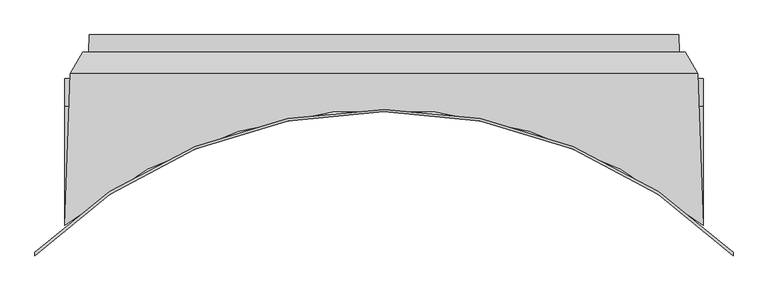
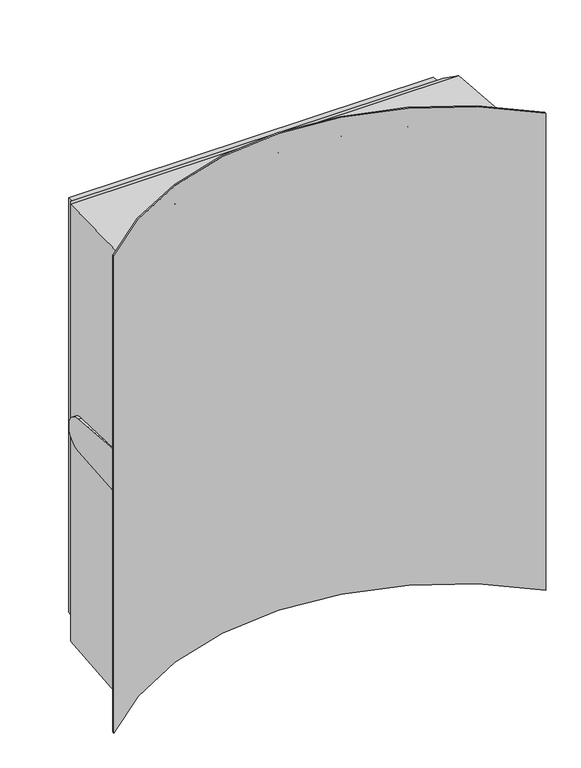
"""IFC4 building model written with IfcOpenShell, lengths in millimetres: proxy geometry, SU.1500x1800ManwayRiserAdaptor.2500."""

from ifc_helpers import new_model, si_unit, frame, origin, place, context, project, spatial, polyline, circle_curve, ellipse_curve, source, transform, mapped, element, save
from ifc_brep_helpers import plane_surface, cylinder_surface, revolved_surface, advanced_brep


def generic_models_790451eb(model_context):
    return source(origin(), model_context, "Body", "AdvancedBrep", [
        advanced_brep(
        [(-741.5036573, 0.0, -891.5036573), (741.5036573, 0.0, -891.5036573), (743.0401711, -44.0, -893.0401711), (-743.0401711, -44.0, -893.0401711), (758.3020983, -44.0, 908.3020983), (758.3020983, -44.0, -908.3020983), (-758.3020983, -44.0, -908.3020983), (-758.3020983, -44.0, 908.3020983), (743.0401711, -44.0, 893.0401711), (-743.0401711, -44.0, 893.0401711), (-741.5036573, 0.0, 891.5036573), (741.5036573, 0.0, 891.5036573), (-803.25, -180.0, 70.0), (-803.25, -479.9060938, 93.971831), (-802.9675096, -479.669245, 93.9528994), (-792.5028289, -180.0, 70.0), (-792.5028289, -180.0, -70.0), (-803.25, -180.0, -70.0), (-803.25, -479.9060938, -93.971831), (-802.9675096, -479.669245, -93.9528994), (878.2496957, -548.176803, 1025.0), (878.2496957, -548.176803, -1025.0), (-878.2496957, -548.176803, -1025.0), (-878.2496957, -548.176803, 1025.0), (-802.9675096, -479.669245, -952.9675096), (802.9675096, -479.669245, -952.9675096), (802.9675096, -479.669245, -93.9528994), (803.25, -479.9060938, -93.971831), (803.25, -479.9060938, 93.971831), (802.9675096, -479.669245, 93.9528994), (802.9675096, -479.669245, 952.9675096), (-802.9675096, -479.669245, 952.9675096), (-789.6496465, -98.2955463, 939.6496465), (-789.6496465, -98.2955463, -939.6496465), (803.25, -180.0, 70.0), (792.5028289, -180.0, 70.0), (803.25, -180.0, -70.0), (792.5028289, -180.0, -70.0), (789.6496465, -98.2955463, -939.6496465), (789.6496465, -98.2955463, 939.6496465), (878.2496957, -556.6285986, -1025.0), (878.2496957, -556.6285986, 1025.0), (-878.2496957, -556.6285986, 1025.0), (-878.2496957, -556.6285986, -1025.0)],
        [
            (0, 1),
            (1, 2),
            (2, 3),
            (3, 0),
            (4, 5),
            (5, 6),
            (6, 7),
            (7, 4),
            (2, 8),
            (8, 9),
            (9, 3),
            (10, 0),
            (9, 10),
            (11, 10),
            (8, 11),
            (1, 11),
            (12, 13),
            (13, 14, ellipse_curve(frame((0.0, -1437.6583778, 170.5260471), z_axis=(0.0, -0.07967700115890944, -0.99682073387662), x_axis=(0.0, -0.99682073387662, 0.07967700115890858)), 1253.9867576, 1250.0)),
            (14, 15),
            (15, 12),
            (15, 16, ellipse_curve(frame((-792.5028289, -180.0, 0.0), z_axis=(-0.9993908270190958, 0.034899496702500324, 0.0), x_axis=(0.03489949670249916, 0.9993908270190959, 0.0)), 70.0426681, 70.0)),
            (16, 17),
            (17, 12, circle_curve(frame((-803.25, -180.0, 0.0), z_axis=(1.0, 0.0, 0.0), x_axis=(0.0, 0.0, -1.0)), 70.0)),
            (18, 17),
            (16, 19),
            (19, 18, ellipse_curve(frame((0.0, -1437.6583778, -170.5260471), z_axis=(0.0, -0.07967700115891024, 0.99682073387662), x_axis=(0.0, 0.9968207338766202, 0.07967700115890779)), 1253.9867576, 1250.0)),
            (20, 21),
            (21, 22, circle_curve(frame((0.0, -1437.6583778, -1025.0), z_axis=(0.0, 0.0, 1.0), x_axis=(0.7025997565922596, 0.7115852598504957, 0.0)), 1250.0)),
            (22, 23),
            (23, 20, circle_curve(frame((0.0, -1437.6583778, 1025.0), z_axis=(0.0, 0.0, -1.0), x_axis=(0.7025997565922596, 0.7115852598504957, 0.0)), 1250.0)),
            (13, 18),
            (19, 24),
            (24, 25, ellipse_curve(frame((0.0, -1437.6583778, -986.4212272), z_axis=(0.0, 0.034899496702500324, -0.9993908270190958), x_axis=(0.0, 0.9993908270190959, 0.03489949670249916)), 1250.7619304, 1250.0)),
            (25, 26),
            (26, 27, ellipse_curve(frame((0.0, -1437.6583778, -170.5260471), z_axis=(0.0, 0.07967700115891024, -0.99682073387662), x_axis=(0.0, 0.9968207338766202, 0.07967700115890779)), 1253.9867576, 1250.0)),
            (27, 28),
            (28, 29, ellipse_curve(frame((0.0, -1437.6583778, 170.5260471), z_axis=(0.0, 0.07967700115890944, 0.99682073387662), x_axis=(0.0, -0.99682073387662, 0.07967700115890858)), 1253.9867576, 1250.0)),
            (29, 30),
            (30, 31, ellipse_curve(frame((0.0, -1437.6583778, 986.4212272), z_axis=(0.0, 0.034899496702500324, 0.9993908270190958), x_axis=(0.0, -0.9993908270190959, 0.03489949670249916)), 1250.7619304, 1250.0)),
            (31, 14),
            (31, 32),
            (32, 33),
            (33, 24),
            (34, 35),
            (35, 29),
            (28, 34),
            (34, 36, circle_curve(frame((803.25, -180.0, 0.0), z_axis=(-1.0, 0.0, 0.0), x_axis=(0.0, 0.0, -1.0)), 70.0)),
            (36, 37),
            (37, 35, ellipse_curve(frame((792.5028289, -180.0, 0.0), z_axis=(0.9993908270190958, 0.03489949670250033, 0.0), x_axis=(0.034899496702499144, -0.9993908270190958, 0.0)), 70.0426681, 70.0)),
            (27, 36),
            (26, 37),
            (25, 38),
            (38, 39),
            (39, 30),
            (33, 38),
            (38, 5),
            (4, 39),
            (33, 6),
            (32, 7),
            (39, 32),
            (40, 41),
            (41, 42, circle_curve(frame((0.0, -1437.6583778, 1025.0), z_axis=(0.0, 0.0, 1.0), x_axis=(-0.7059885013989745, -0.7082232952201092, 0.0)), 1244.0)),
            (42, 43),
            (43, 40, circle_curve(frame((0.0, -1437.6583778, -1025.0), z_axis=(0.0, 0.0, -1.0), x_axis=(-0.7059885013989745, -0.7082232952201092, 0.0)), 1244.0)),
            (40, 21),
            (20, 41),
            (42, 23),
            (22, 43),
        ],
        [
            plane_surface(frame((700.0, 0.0, -891.5036573), z_axis=(0.0, 0.03489949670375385, -0.999390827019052), x_axis=(0.0, -0.999390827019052, -0.03489949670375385))),
            plane_surface(frame((700.0, -44.0, -893.0401711), z_axis=(0.0, 1.0, 0.0), x_axis=(0.0, 0.0, -1.0))),
            plane_surface(frame((-741.5036573, 0.0, -850.0), z_axis=(-0.999390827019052, 0.03489949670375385, 0.0), x_axis=(-0.03489949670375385, -0.999390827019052, 0.0))),
            plane_surface(frame((-700.0, 0.0, 891.5036573), z_axis=(0.0, 0.03489949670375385, 0.999390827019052), x_axis=(0.0, -0.999390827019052, 0.03489949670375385))),
            plane_surface(frame((741.5036573, 0.0, 850.0), z_axis=(0.999390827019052, 0.03489949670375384, 0.0), x_axis=(0.03489949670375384, -0.999390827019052, 0.0))),
            plane_surface(frame((0.0, -180.0, 70.0), z_axis=(0.0, 0.07967700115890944, 0.99682073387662), x_axis=(0.0, -0.99682073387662, 0.07967700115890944))),
            cylinder_surface(frame((0.0, -180.0, 0.0), z_axis=(1.0, 0.0, 0.0), x_axis=(0.0, 0.0, -1.0)), 70.0),
            plane_surface(frame((0.0, -487.75, -94.5988032), z_axis=(0.0, 0.07967700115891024, -0.99682073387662), x_axis=(0.0, 0.99682073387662, 0.07967700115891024))),
            cylinder_surface(frame((0.0, -1437.6583778, 0.0), z_axis=(0.0, 0.0, 1.0), x_axis=(0.7025997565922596, 0.7115852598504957, 0.0)), 1250.0),
            plane_surface(frame((-789.6496465, -98.2955463, -850.0), z_axis=(-0.9993908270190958, 0.034899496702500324, 0.0), x_axis=(-0.034899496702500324, -0.9993908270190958, 0.0))),
            plane_surface(frame((803.25, -298.875, 0.0), z_axis=(1.0, 0.0, 0.0), x_axis=(0.0, 0.0, -1.0))),
            plane_surface(frame((789.6496465, -98.2955463, 850.0), z_axis=(0.9993908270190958, 0.03489949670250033, 0.0), x_axis=(0.03489949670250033, -0.9993908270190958, 0.0))),
            plane_surface(frame((700.0, -98.2955463, -939.6496465), z_axis=(0.0, 0.034899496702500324, -0.9993908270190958), x_axis=(0.0, -0.9993908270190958, -0.034899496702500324))),
            plane_surface(frame((758.3020983, -44.0, 850.0), z_axis=(0.8660254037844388, 0.4999999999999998, 0.0), x_axis=(0.4999999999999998, -0.8660254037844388, 0.0))),
            plane_surface(frame((700.0, -44.0, -908.3020983), z_axis=(0.0, 0.4999999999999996, -0.8660254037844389), x_axis=(0.0, -0.8660254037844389, -0.4999999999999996))),
            plane_surface(frame((-758.3020983, -44.0, -850.0), z_axis=(-0.8660254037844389, 0.4999999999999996, 0.0), x_axis=(-0.4999999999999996, -0.8660254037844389, 0.0))),
            plane_surface(frame((-700.0, -98.2955463, 939.6496465), z_axis=(0.0, 0.034899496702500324, 0.9993908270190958), x_axis=(0.0, -0.9993908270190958, 0.034899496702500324))),
            plane_surface(frame((-700.0, -44.0, 908.3020983), z_axis=(0.0, 0.4999999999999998, 0.8660254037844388), x_axis=(0.0, -0.8660254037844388, 0.4999999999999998))),
            revolved_surface(polyline([(-878.2496957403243, -2318.6881570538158, 1024.9999999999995), (-878.2496957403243, -2318.6881570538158, -1024.9999999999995)]), (0.0, -1437.6583778, 0.0), (0.0, 0.0, 0.9999999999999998)),
            plane_surface(frame((878.2496957, -556.6285986, 0.0), z_axis=(1.0, 0.0, 0.0), x_axis=(0.0, 1.0, 0.0))),
            plane_surface(frame((-878.2496957, -548.176803, 0.0), z_axis=(-1.0, 0.0, 0.0), x_axis=(0.0, -1.0, 0.0))),
            plane_surface(frame((0.0, -372.1434882, 1025.0), z_axis=(0.0, 0.0, 1.0), x_axis=(1.0, 0.0, 0.0))),
            plane_surface(frame((-803.25, -298.875, 0.0), z_axis=(-1.0, 0.0, 0.0), x_axis=(0.0, 0.0, -1.0))),
            plane_surface(frame((0.0, -372.1434882, -1025.0), z_axis=(0.0, 0.0, -1.0), x_axis=(1.0, 0.0, 0.0))),
            plane_surface(frame((700.0, 0.0, -885.5), z_axis=(0.0, 1.0, 0.0), x_axis=(0.0, 0.0, -1.0))),
        ],
        [
            (0, [[1, 2, 3, 4]]),
            (1, [[5, 6, 7, 8], [9, 10, 11, -3]]),
            (2, [[12, -4, -11, 13]]),
            (3, [[14, -13, -10, 15]]),
            (4, [[16, -15, -9, -2]]),
            (5, [[17, 18, 19, 20]]),
            (6, [[-20, 21, 22, 23]]),
            (7, [[24, -22, 25, 26]]),
            (8, [[27, 28, 29, 30], [-18, 31, -26, 32, 33, 34, 35, 36, 37, 38, 39, 40]]),
            (9, [[-40, 41, 42, 43, -32, -25, -21, -19]]),
            (5, [[44, 45, -37, 46]]),
            (6, [[-44, 47, 48, 49]]),
            (10, [[-47, -46, -36, 50]]),
            (7, [[-48, -50, -35, 51]]),
            (11, [[-45, -49, -51, -34, 52, 53, 54, -38]]),
            (12, [[-52, -33, -43, 55]]),
            (13, [[-53, 56, -5, 57]]),
            (14, [[-55, 58, -6, -56]]),
            (15, [[-42, 59, -7, -58]]),
            (16, [[-41, -39, -54, 60]]),
            (17, [[-60, -57, -8, -59]]),
            (18, [[61, 62, 63, 64]]),
            (19, [[-61, 65, -27, 66]]),
            (20, [[-63, 67, -29, 68]]),
            (21, [[-66, -30, -67, -62]]),
            (22, [[-17, -23, -24, -31]]),
            (23, [[-64, -68, -28, -65]]),
            (24, [[-1, -12, -14, -16]]),
        ],
    ),
    ])


if __name__ == "__main__":
    model = new_model("IFC4")
    model_context = context("Model", 3, world=origin())
    ifc_project = project(units=[si_unit("LENGTHUNIT", "METRE", prefix="MILLI")], contexts=[model_context])
    site = spatial("IfcSite", under=ifc_project)
    building = spatial("IfcBuilding", under=site)
    placement = place(None, origin())
    generic_models_shape = generic_models_790451eb(model_context)
    element("IfcBuildingElementProxy", 1, Name="SU.1500x1800ManwayRiserAdaptor.2500", ObjectType="SU.1500x1800ManwayRiserAdaptor.2500", at=placement, inside=building, context=model_context, shape_type="MappedRepresentation", body=[
        mapped(generic_models_shape, transform((0.0, 0.0, 0.0), x_axis=(1.0, 0.0, 0.0), y_axis=(0.0, 1.0, 0.0), z_axis=(0.0, 0.0, 1.0))),
    ])
    save(model, "model.ifc")
